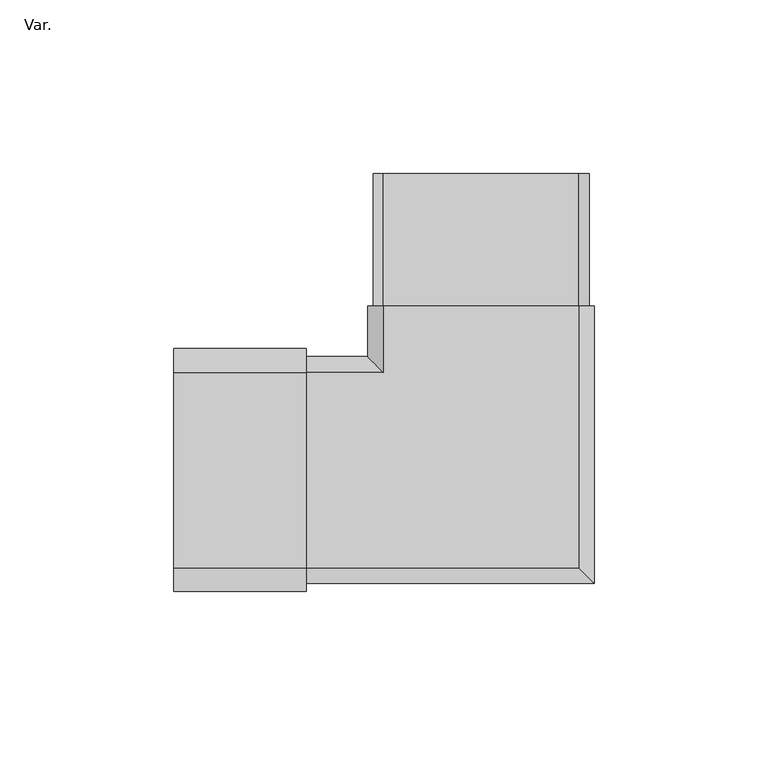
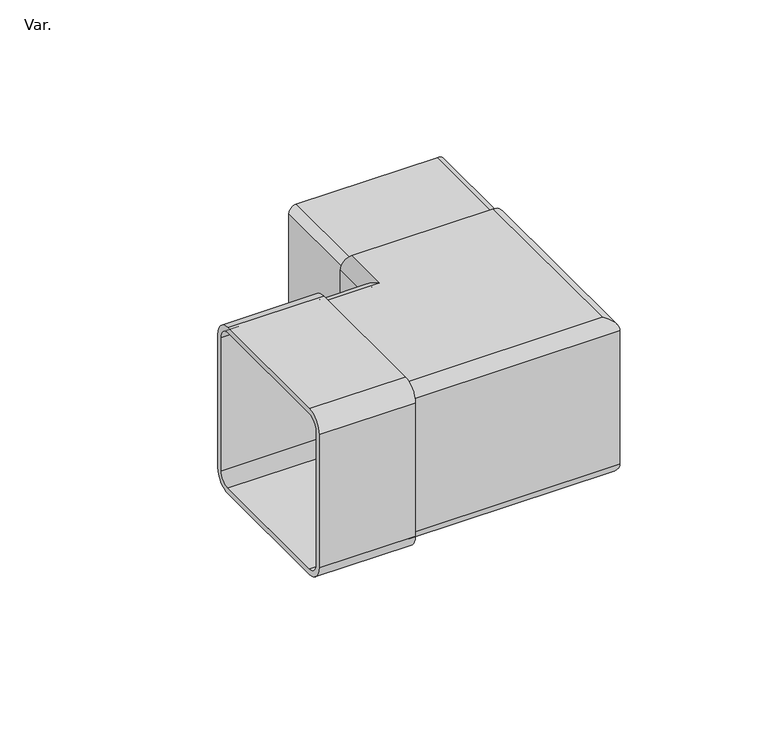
"""IFC4 building model written with IfcOpenShell, lengths in millimetres: pipe fitting geometry, PavcoWavin_UnionesDeTuberia_ZBajante Tradicional_Codo_NoUsarUnion : Var.."""

from ifc_helpers import new_model, si_unit, point, frame, frame_2d, origin, place, context, project, spatial, polyline, circle_curve, ellipse_curve, trimmed, segment, composite_curve, outline, extrude, source, transform, mapped, element, save
from ifc_brep_helpers import plane_surface, cylinder_surface, revolved_surface, advanced_brep


def var_41f675c7(model_context):
    return source(origin(), model_context, "Body", "SolidModel", [
        extrude(outline(composite_curve([segment(polyline([(-28.15, 31.12), (28.15, 31.12)]), True, "CONTINUOUS"), segment(trimmed(circle_curve(frame_2d((28.15, 28.15)), 2.97), [point((28.15, 31.12))], [point((31.12, 28.15))], False, "CARTESIAN"), True, "CONTINUOUS"), segment(polyline([(31.12, 28.15), (31.12, -28.15)]), True, "CONTINUOUS"), segment(trimmed(circle_curve(frame_2d((28.15, -28.15)), 2.97), [point((31.12, -28.15))], [point((28.15, -31.12))], False, "CARTESIAN"), True, "CONTINUOUS"), segment(polyline([(28.15, -31.12), (-28.15, -31.12)]), True, "CONTINUOUS"), segment(trimmed(circle_curve(frame_2d((-28.15, -28.15)), 2.97), [point((-28.15, -31.12))], [point((-31.12, -28.15))], False, "CARTESIAN"), True, "CONTINUOUS"), segment(polyline([(-31.12, -28.15), (-31.12, 28.15)]), True, "CONTINUOUS"), segment(trimmed(circle_curve(frame_2d((-28.15, 28.15)), 2.97), [point((-31.12, 28.15))], [point((-28.15, 31.12))], False, "CARTESIAN"), True, "CONTINUOUS")], self_intersect=False), holes=[composite_curve([segment(trimmed(circle_curve(frame_2d((-28.15, 28.15)), 0.61), [point((-28.15, 28.76))], [point((-28.76, 28.15))], True, "CARTESIAN"), True, "CONTINUOUS"), segment(polyline([(-28.76, 28.15), (-28.76, -28.15)]), True, "CONTINUOUS"), segment(trimmed(circle_curve(frame_2d((-28.15, -28.15)), 0.61), [point((-28.76, -28.15))], [point((-28.15, -28.76))], True, "CARTESIAN"), True, "CONTINUOUS"), segment(polyline([(-28.15, -28.76), (28.15, -28.76)]), True, "CONTINUOUS"), segment(trimmed(circle_curve(frame_2d((28.15, -28.15)), 0.61), [point((28.15, -28.76))], [point((28.76, -28.15))], True, "CARTESIAN"), True, "CONTINUOUS"), segment(polyline([(28.76, -28.15), (28.76, 28.15)]), True, "CONTINUOUS"), segment(trimmed(circle_curve(frame_2d((28.15, 28.15)), 0.61), [point((28.76, 28.15))], [point((28.15, 28.76))], True, "CARTESIAN"), True, "CONTINUOUS"), segment(polyline([(28.15, 28.76), (-28.15, 28.76)]), True, "CONTINUOUS")], self_intersect=False)]), frame((0.0, 47.2, 0.0), z_axis=(0.0, 1.0, 0.0), x_axis=(0.0, 0.0, 1.0)), (0.0, 0.0, 1.0), 38.3),
        extrude(outline(composite_curve([segment(polyline([(-34.96, -28.15), (-34.96, 28.15)]), True, "CONTINUOUS"), segment(trimmed(circle_curve(frame_2d((-28.15, 28.15)), 6.81), [point((-34.96, 28.15))], [point((-28.15, 34.96))], False, "CARTESIAN"), True, "CONTINUOUS"), segment(polyline([(-28.15, 34.96), (28.15, 34.96)]), True, "CONTINUOUS"), segment(trimmed(circle_curve(frame_2d((28.15, 28.15)), 6.81), [point((28.15, 34.96))], [point((34.96, 28.15))], False, "CARTESIAN"), True, "CONTINUOUS"), segment(polyline([(34.96, 28.15), (34.96, -28.15)]), True, "CONTINUOUS"), segment(trimmed(circle_curve(frame_2d((28.15, -28.15)), 6.81), [point((34.96, -28.15))], [point((28.15, -34.96))], False, "CARTESIAN"), True, "CONTINUOUS"), segment(polyline([(28.15, -34.96), (-28.15, -34.96)]), True, "CONTINUOUS"), segment(trimmed(circle_curve(frame_2d((-28.15, -28.15)), 6.81), [point((-28.15, -34.96))], [point((-34.96, -28.15))], False, "CARTESIAN"), True, "CONTINUOUS")], self_intersect=False), holes=[composite_curve([segment(trimmed(circle_curve(frame_2d((-28.15, -28.15)), 4.52), [point((-32.67, -28.15))], [point((-28.15, -32.67))], True, "CARTESIAN"), True, "CONTINUOUS"), segment(polyline([(-28.15, -32.67), (28.15, -32.67)]), True, "CONTINUOUS"), segment(trimmed(circle_curve(frame_2d((28.15, -28.15)), 4.52), [point((28.15, -32.67))], [point((32.67, -28.15))], True, "CARTESIAN"), True, "CONTINUOUS"), segment(polyline([(32.67, -28.15), (32.67, 28.15)]), True, "CONTINUOUS"), segment(trimmed(circle_curve(frame_2d((28.15, 28.15)), 4.52), [point((32.67, 28.15))], [point((28.15, 32.67))], True, "CARTESIAN"), True, "CONTINUOUS"), segment(polyline([(28.15, 32.67), (-28.15, 32.67)]), True, "CONTINUOUS"), segment(trimmed(circle_curve(frame_2d((-28.15, 28.15)), 4.52), [point((-28.15, 32.67))], [point((-32.67, 28.15))], True, "CARTESIAN"), True, "CONTINUOUS"), segment(polyline([(-32.67, 28.15), (-32.67, -28.15)]), True, "CONTINUOUS")], self_intersect=False)]), frame((-88.6, 0.0, 0.0), z_axis=(1.0, 0.0, 0.0), x_axis=(0.0, 1.0, 0.0)), (0.0, 0.0, 1.0), 38.3),
        advanced_brep(
        [(-32.67, 47.2, -28.15), (-32.67, 47.2, 28.15), (-28.15, 47.2, 32.67), (28.15, 47.2, 32.67), (32.67, 47.2, 28.15), (32.67, 47.2, -28.15), (28.15, 47.2, -32.67), (-28.15, 47.2, -32.67), (28.15, 47.2, -31.12), (31.12, 47.2, -28.15), (31.12, 47.2, 28.15), (28.15, 47.2, 31.12), (-28.15, 47.2, 31.12), (-31.12, 47.2, 28.15), (-31.12, 47.2, -28.15), (-28.15, 47.2, -31.12), (28.15, -28.15, -31.12), (31.12, -31.12, -28.15), (31.12, -31.12, 28.15), (28.15, -28.15, 31.12), (-50.3, -28.15, 31.12), (-50.3, 28.15, 31.12), (-28.15, 28.15, 31.12), (-31.12, 31.12, 28.15), (-31.12, 31.12, -28.15), (-28.15, 28.15, -31.12), (-50.3, 28.15, -31.12), (-50.3, -28.15, -31.12), (-32.67, 32.67, -28.15), (-32.67, 32.67, 28.15), (-28.15, 28.15, 32.67), (-50.3, 28.15, 32.67), (-50.3, -28.15, 32.67), (28.15, -28.15, 32.67), (32.67, -32.67, 28.15), (32.67, -32.67, -28.15), (28.15, -28.15, -32.67), (-50.3, -28.15, -32.67), (-50.3, 28.15, -32.67), (-28.15, 28.15, -32.67), (-50.3, 32.67, -28.15), (-50.3, -32.67, -28.15), (-50.3, -32.67, 28.15), (-50.3, 32.67, 28.15), (-50.3, 31.12, -28.15), (-50.3, 31.12, 28.15), (-50.3, -31.12, 28.15), (-50.3, -31.12, -28.15)],
        [
            (0, 1),
            (1, 2, circle_curve(frame((-28.15, 47.2, 28.15), z_axis=(0.0, 1.0, 0.0), x_axis=(1.0, 0.0, 0.0)), 4.52)),
            (2, 3),
            (3, 4, circle_curve(frame((28.15, 47.2, 28.15), z_axis=(0.0, 1.0, 0.0), x_axis=(1.0, 0.0, 0.0)), 4.52)),
            (4, 5),
            (5, 6, circle_curve(frame((28.15, 47.2, -28.15), z_axis=(0.0, 1.0, 0.0), x_axis=(1.0, 0.0, 0.0)), 4.52)),
            (6, 7),
            (7, 0, circle_curve(frame((-28.15, 47.2, -28.15), z_axis=(0.0, 1.0, 0.0), x_axis=(1.0, 0.0, 0.0)), 4.52)),
            (8, 9, circle_curve(frame((28.15, 47.2, -28.15), z_axis=(0.0, -1.0, 0.0), x_axis=(1.0, 0.0, 0.0)), 2.97)),
            (9, 10),
            (10, 11, circle_curve(frame((28.15, 47.2, 28.15), z_axis=(0.0, -1.0, 0.0), x_axis=(1.0, 0.0, 0.0)), 2.97)),
            (11, 12),
            (12, 13, circle_curve(frame((-28.15, 47.2, 28.15), z_axis=(0.0, -1.0, 0.0), x_axis=(1.0, 0.0, 0.0)), 2.97)),
            (13, 14),
            (14, 15, circle_curve(frame((-28.15, 47.2, -28.15), z_axis=(0.0, -1.0, 0.0), x_axis=(1.0, 0.0, 0.0)), 2.97)),
            (15, 8),
            (8, 16),
            (16, 17, ellipse_curve(frame((28.15, -28.15, -28.15), z_axis=(-0.707106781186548, -0.707106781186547, 0.0), x_axis=(0.707106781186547, -0.707106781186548, 0.0)), 4.2002143, 2.97)),
            (17, 9),
            (17, 18),
            (18, 10),
            (18, 19, ellipse_curve(frame((28.15, -28.15, 28.15), z_axis=(-0.707106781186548, -0.707106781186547, 0.0), x_axis=(0.707106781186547, -0.707106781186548, 0.0)), 4.2002143, 2.97)),
            (19, 11),
            (19, 20),
            (20, 21),
            (21, 22),
            (22, 12),
            (22, 23, ellipse_curve(frame((-28.15, 28.15, 28.15), z_axis=(-0.707106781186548, -0.707106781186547, 0.0), x_axis=(0.707106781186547, -0.707106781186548, 0.0)), 4.2002143, 2.97)),
            (23, 13),
            (23, 24),
            (24, 14),
            (24, 25, ellipse_curve(frame((-28.15, 28.15, -28.15), z_axis=(-0.707106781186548, -0.707106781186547, 0.0), x_axis=(0.707106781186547, -0.707106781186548, 0.0)), 4.2002143, 2.97)),
            (25, 15),
            (25, 26),
            (26, 27),
            (27, 16),
            (0, 28),
            (28, 29),
            (29, 1),
            (29, 30, ellipse_curve(frame((-28.15, 28.15, 28.15), z_axis=(0.707106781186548, 0.707106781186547, 0.0), x_axis=(-0.707106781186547, 0.707106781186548, 0.0)), 6.3922453, 4.52)),
            (30, 2),
            (30, 31),
            (31, 32),
            (32, 33),
            (33, 3),
            (33, 34, ellipse_curve(frame((28.15, -28.15, 28.15), z_axis=(0.707106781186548, 0.707106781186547, 0.0), x_axis=(-0.707106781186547, 0.707106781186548, 0.0)), 6.3922453, 4.52)),
            (34, 4),
            (34, 35),
            (35, 5),
            (35, 36, ellipse_curve(frame((28.15, -28.15, -28.15), z_axis=(0.707106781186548, 0.707106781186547, 0.0), x_axis=(-0.707106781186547, 0.707106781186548, 0.0)), 6.3922453, 4.52)),
            (36, 6),
            (36, 37),
            (37, 38),
            (38, 39),
            (39, 7),
            (39, 28, ellipse_curve(frame((-28.15, 28.15, -28.15), z_axis=(0.707106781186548, 0.707106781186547, 0.0), x_axis=(-0.707106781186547, 0.707106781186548, 0.0)), 6.3922453, 4.52)),
            (40, 38, circle_curve(frame((-50.3, 28.15, -28.15), z_axis=(-1.0, 0.0, 0.0), x_axis=(0.0, -1.0, 0.0)), 4.52)),
            (37, 41, circle_curve(frame((-50.3, -28.15, -28.15), z_axis=(-1.0, 0.0, 0.0), x_axis=(0.0, -1.0, 0.0)), 4.52)),
            (41, 42),
            (42, 32, circle_curve(frame((-50.3, -28.15, 28.15), z_axis=(-1.0, 0.0, 0.0), x_axis=(0.0, -1.0, 0.0)), 4.52)),
            (31, 43, circle_curve(frame((-50.3, 28.15, 28.15), z_axis=(-1.0, 0.0, 0.0), x_axis=(0.0, -1.0, 0.0)), 4.52)),
            (43, 40),
            (26, 44, circle_curve(frame((-50.3, 28.15, -28.15), z_axis=(1.0, 0.0, 0.0), x_axis=(0.0, -1.0, 0.0)), 2.97)),
            (44, 45),
            (45, 21, circle_curve(frame((-50.3, 28.15, 28.15), z_axis=(1.0, 0.0, 0.0), x_axis=(0.0, -1.0, 0.0)), 2.97)),
            (20, 46, circle_curve(frame((-50.3, -28.15, 28.15), z_axis=(1.0, 0.0, 0.0), x_axis=(0.0, -1.0, 0.0)), 2.97)),
            (46, 47),
            (47, 27, circle_curve(frame((-50.3, -28.15, -28.15), z_axis=(1.0, 0.0, 0.0), x_axis=(0.0, -1.0, 0.0)), 2.97)),
            (47, 17),
            (46, 18),
            (45, 23),
            (44, 24),
            (28, 40),
            (43, 29),
            (42, 34),
            (41, 35),
        ],
        [
            plane_surface(frame((0.0, 47.2, 0.0), z_axis=(0.0, 1.0, 0.0), x_axis=(0.0, 0.0, 1.0))),
            revolved_surface(polyline([(31.119999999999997, -31.120000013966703, -28.15), (31.119999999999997, 47.2, -28.15)]), (28.15, 47.2, -28.15), (0.0, -1.0, 0.0)),
            plane_surface(frame((31.12, 47.2, -28.15), z_axis=(-1.0, 0.0, 0.0), x_axis=(0.0, -1.0, 0.0))),
            revolved_surface(polyline([(31.119999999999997, -31.120000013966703, 28.15), (31.119999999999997, 47.2, 28.15)]), (28.15, 47.2, 28.15), (0.0, -1.0, 0.0)),
            plane_surface(frame((28.15, 47.2, 31.12), z_axis=(0.0, 0.0, -1.0), x_axis=(0.0, -1.0, 0.0))),
            revolved_surface(polyline([(-25.18, 25.179999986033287, 28.15), (-25.18, 47.2, 28.15)]), (-28.15, 47.2, 28.15), (0.0, -1.0, 0.0)),
            plane_surface(frame((-31.12, 47.2, 28.15), z_axis=(1.0, 0.0, 0.0), x_axis=(0.0, -1.0, 0.0))),
            revolved_surface(polyline([(-25.18, 25.179999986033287, -28.15), (-25.18, 47.2, -28.15)]), (-28.15, 47.2, -28.15), (0.0, -1.0, 0.0)),
            plane_surface(frame((-28.15, 47.2, -31.12), z_axis=(0.0, 0.0, 1.0), x_axis=(0.0, -1.0, 0.0))),
            plane_surface(frame((-32.67, 47.2, -28.15), z_axis=(-1.0, 0.0, 0.0), x_axis=(0.0, -1.0, 0.0))),
            cylinder_surface(frame((-28.15, 47.2, 28.15), z_axis=(0.0, 1.0, 0.0), x_axis=(1.0, 0.0, 0.0)), 4.52),
            plane_surface(frame((-28.15, 47.2, 32.67), z_axis=(0.0, 0.0, 1.0), x_axis=(0.0, -1.0, 0.0))),
            cylinder_surface(frame((28.15, 47.2, 28.15), z_axis=(0.0, 1.0, 0.0), x_axis=(1.0, 0.0, 0.0)), 4.52),
            plane_surface(frame((32.67, 47.2, 28.15), z_axis=(1.0, 0.0, 0.0), x_axis=(0.0, -1.0, 0.0))),
            cylinder_surface(frame((28.15, 47.2, -28.15), z_axis=(0.0, 1.0, 0.0), x_axis=(1.0, 0.0, 0.0)), 4.52),
            plane_surface(frame((28.15, 47.2, -32.67), z_axis=(0.0, 0.0, -1.0), x_axis=(0.0, -1.0, 0.0))),
            cylinder_surface(frame((-28.15, 47.2, -28.15), z_axis=(0.0, 1.0, 0.0), x_axis=(1.0, 0.0, 0.0)), 4.52),
            plane_surface(frame((-50.3, 0.0, 0.0), z_axis=(-1.0, 0.0, 0.0), x_axis=(0.0, 0.0, 1.0))),
            revolved_surface(polyline([(-50.3, -31.119999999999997, -28.15), (31.120000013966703, -31.119999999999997, -28.15)]), (0.0, -28.15, -28.15), (-1.0, 0.0, 0.0)),
            plane_surface(frame((31.12, -31.12, -28.15), z_axis=(0.0, 1.0, 0.0), x_axis=(-1.0, 0.0, 0.0))),
            revolved_surface(polyline([(-50.3, -31.119999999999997, 28.15), (31.120000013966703, -31.119999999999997, 28.15)]), (0.0, -28.15, 28.15), (-1.0, 0.0, 0.0)),
            revolved_surface(polyline([(-50.3, 25.18, 28.15), (-25.179999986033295, 25.18, 28.15)]), (0.0, 28.15, 28.15), (-1.0, 0.0, 0.0)),
            plane_surface(frame((-31.12, 31.12, 28.15), z_axis=(0.0, -1.0, 0.0), x_axis=(-1.0, 0.0, 0.0))),
            revolved_surface(polyline([(-50.3, 25.18, -28.15), (-25.179999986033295, 25.18, -28.15)]), (0.0, 28.15, -28.15), (-1.0, 0.0, 0.0)),
            plane_surface(frame((-32.67, 32.67, -28.15), z_axis=(0.0, 1.0, 0.0), x_axis=(-1.0, 0.0, 0.0))),
            cylinder_surface(frame((0.0, 28.15, 28.15), z_axis=(1.0, 0.0, 0.0), x_axis=(0.0, -1.0, 0.0)), 4.52),
            cylinder_surface(frame((0.0, -28.15, 28.15), z_axis=(1.0, 0.0, 0.0), x_axis=(0.0, -1.0, 0.0)), 4.52),
            plane_surface(frame((32.67, -32.67, 28.15), z_axis=(0.0, -1.0, 0.0), x_axis=(-1.0, 0.0, 0.0))),
            cylinder_surface(frame((0.0, -28.15, -28.15), z_axis=(1.0, 0.0, 0.0), x_axis=(0.0, -1.0, 0.0)), 4.52),
            cylinder_surface(frame((0.0, 28.15, -28.15), z_axis=(1.0, 0.0, 0.0), x_axis=(0.0, -1.0, 0.0)), 4.52),
        ],
        [
            (0, [[1, 2, 3, 4, 5, 6, 7, 8], [9, 10, 11, 12, 13, 14, 15, 16]]),
            (1, [[-9, 17, 18, 19]]),
            (2, [[-10, -19, 20, 21]]),
            (3, [[-11, -21, 22, 23]]),
            (4, [[-12, -23, 24, 25, 26, 27]]),
            (5, [[-13, -27, 28, 29]]),
            (6, [[-14, -29, 30, 31]]),
            (7, [[-15, -31, 32, 33]]),
            (8, [[-16, -33, 34, 35, 36, -17]]),
            (9, [[-1, 37, 38, 39]]),
            (10, [[-2, -39, 40, 41]]),
            (11, [[-3, -41, 42, 43, 44, 45]]),
            (12, [[-4, -45, 46, 47]]),
            (13, [[-5, -47, 48, 49]]),
            (14, [[-6, -49, 50, 51]]),
            (15, [[-7, -51, 52, 53, 54, 55]]),
            (16, [[-8, -55, 56, -37]]),
            (17, [[57, -53, 58, 59, 60, -43, 61, 62], [-35, 63, 64, 65, -25, 66, 67, 68]]),
            (18, [[-18, -36, -68, 69]]),
            (19, [[-20, -69, -67, 70]]),
            (20, [[-22, -70, -66, -24]]),
            (21, [[-28, -26, -65, 71]]),
            (22, [[-30, -71, -64, 72]]),
            (23, [[-32, -72, -63, -34]]),
            (24, [[-38, 73, -62, 74]]),
            (25, [[-40, -74, -61, -42]]),
            (26, [[-46, -44, -60, 75]]),
            (27, [[-48, -75, -59, 76]]),
            (28, [[-50, -76, -58, -52]]),
            (29, [[-56, -54, -57, -73]]),
        ],
    ),
    ])


if __name__ == "__main__":
    model = new_model("IFC4")
    model_context = context("Model", 3, world=origin())
    ifc_project = project(units=[si_unit("LENGTHUNIT", "METRE", prefix="MILLI")], contexts=[model_context])
    site = spatial("IfcSite", under=ifc_project)
    building = spatial("IfcBuilding", under=site)
    placement = place(None, origin())
    var_shape = var_41f675c7(model_context)
    element("IfcPipeFitting", 1, ObjectType="PavcoWavin_UnionesDeTuberia_ZBajante Tradicional_Codo_NoUsarUnion : Var.", at=placement, inside=building, context=model_context, shape_type="MappedRepresentation", body=[
        mapped(var_shape, transform((0.0, 0.0, 0.0), x_axis=(1.0, 0.0, 0.0), y_axis=(0.0, 1.0, 0.0), z_axis=(0.0, 0.0, 1.0))),
    ])
    save(model, "model.ifc")
